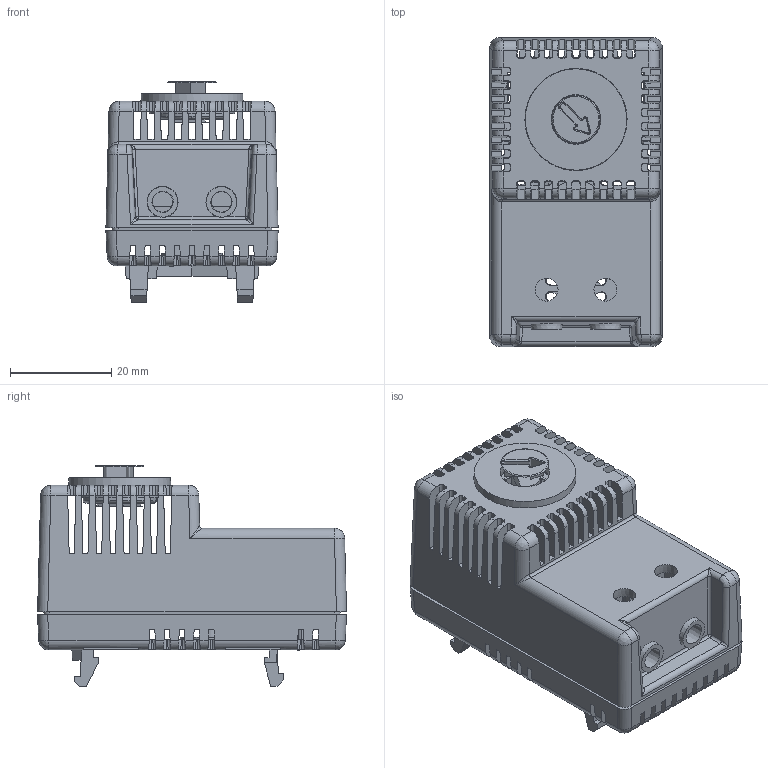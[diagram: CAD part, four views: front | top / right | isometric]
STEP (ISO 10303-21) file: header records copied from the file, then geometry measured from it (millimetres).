
FILE_DESCRIPTION(('STEP AP214'), '1');
FILE_NAME('THR-THV', '2022-05-13T10:00:10', (''), (''), 'ASCON STEP Converter 1.3', 'ASCON Math Kernel', '');
FILE_SCHEMA(('AUTOMOTIVE_DESIGN { 1 0 10303 214 3 1 1}'));
Length unit declared in the file: millimetre
Products named in the file (1): Document
Bounding box: 34 x 61 x 43.6 mm (x, y, z)
Surface area: 22430.3 mm2 (no closed solid volume)
Topology: 0 solids, 6 shells, 970 faces, 3302 edges, 2163 vertices
Faces by surface type: plane 591, cylinder 267, bspline 96, cone 16
Full cylindrical faces by diameter (mm): 3.986 x1
Entity records: 65238 total; most frequent: CARTESIAN_POINT 31110, ORIENTED_EDGE 6452, DIRECTION 4265, EDGE_CURVE 3232, LINE 2341, VECTOR 2341, VERTEX_POINT 2154, EDGE_LOOP 1092
